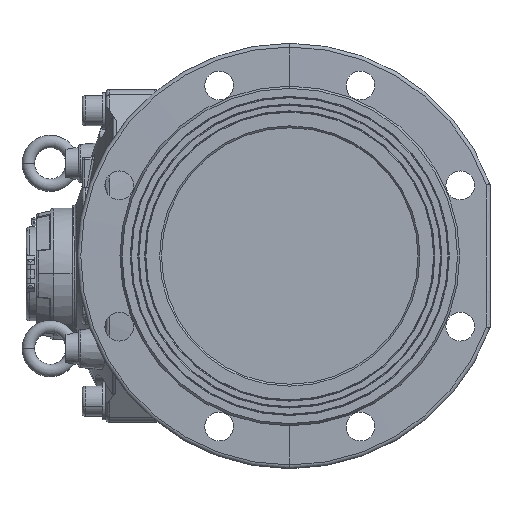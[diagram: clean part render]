
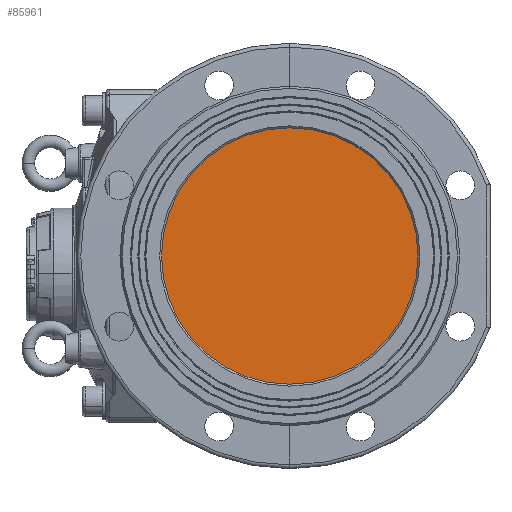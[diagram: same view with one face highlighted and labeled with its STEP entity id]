
A CAD part, left-side view. The second image highlights one B-rep face of the part: STEP entity #85961.
In plain terms, the highlighted planar face has unit normal (-1, 0, 0).
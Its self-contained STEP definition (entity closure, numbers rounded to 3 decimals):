
#9544 = CARTESIAN_POINT ( 'NONE',  ( -173.5, 0., 0. ) ) ;
#10285 = CARTESIAN_POINT ( 'NONE',  ( -173.5, 0., 0. ) ) ;
#16804 = AXIS2_PLACEMENT_3D ( 'NONE', #80291, #62654, #35056 ) ;
#17629 = AXIS2_PLACEMENT_3D ( 'NONE', #9544, #99717, #53814 ) ;
#30830 = CIRCLE ( 'NONE', #17629, 102.5 ) ;
#35056 = DIRECTION ( 'NONE',  ( 0., 1., 0. ) ) ;
#37280 = AXIS2_PLACEMENT_3D ( 'NONE', #10285, #82163, #42110 ) ;
#42110 = DIRECTION ( 'NONE',  ( 0., 1., 0. ) ) ;
#46926 = CIRCLE ( 'NONE', #16804, 102.5 ) ;
#52129 = VERTEX_POINT ( 'NONE', #87336 ) ;
#52728 = VERTEX_POINT ( 'NONE', #103540 ) ;
#53814 = DIRECTION ( 'NONE',  ( 0., 1., 0. ) ) ;
#55095 = PLANE ( 'NONE',  #37280 ) ;
#62654 = DIRECTION ( 'NONE',  ( 1., 0., 0. ) ) ;
#63972 = FACE_OUTER_BOUND ( 'NONE', #67772, .T. ) ;
#67772 = EDGE_LOOP ( 'NONE', ( #92033, #92927 ) ) ;
#80291 = CARTESIAN_POINT ( 'NONE',  ( -173.5, 0., 0. ) ) ;
#81522 = EDGE_CURVE ( 'NONE', #52728, #52129, #30830, .T. ) ;
#82163 = DIRECTION ( 'NONE',  ( 1., 0., 0. ) ) ;
#85961 = ADVANCED_FACE ( 'NONE', ( #63972 ), #55095, .F. ) ;
#87336 = CARTESIAN_POINT ( 'NONE',  ( -173.5, 0., -102.5 ) ) ;
#92033 = ORIENTED_EDGE ( 'NONE', *, *, #81522, .F. ) ;
#92927 = ORIENTED_EDGE ( 'NONE', *, *, #107983, .F. ) ;
#99717 = DIRECTION ( 'NONE',  ( 1., 0., 0. ) ) ;
#103540 = CARTESIAN_POINT ( 'NONE',  ( -173.5, 0., 102.5 ) ) ;
#107983 = EDGE_CURVE ( 'NONE', #52129, #52728, #46926, .T. ) ;
